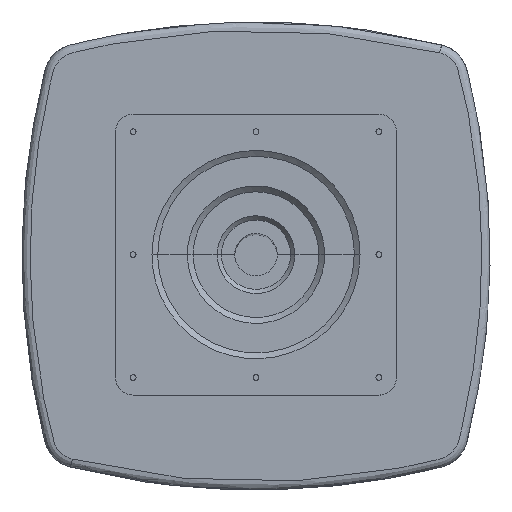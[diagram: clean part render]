
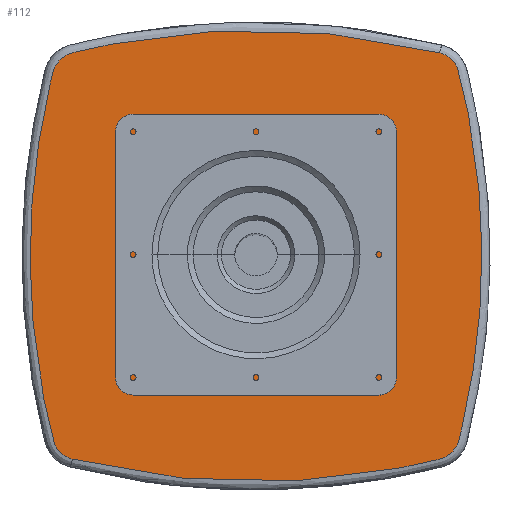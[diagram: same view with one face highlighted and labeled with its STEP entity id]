
A CAD part, top view. The second image highlights one B-rep face of the part: STEP entity #112.
In plain terms, the highlighted planar face has unit normal (0, 0, 1).
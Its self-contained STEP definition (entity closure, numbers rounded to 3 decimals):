
#33=FACE_BOUND('',#293,.T.);
#112=ADVANCED_FACE('',(#193,#33),#1260,.T.);
#193=FACE_OUTER_BOUND('',#292,.T.);
#292=EDGE_LOOP('',(#644,#645));
#293=EDGE_LOOP('',(#646,#647));
#644=ORIENTED_EDGE('',*,*,#866,.T.);
#645=ORIENTED_EDGE('',*,*,#871,.T.);
#646=ORIENTED_EDGE('',*,*,#789,.F.);
#647=ORIENTED_EDGE('',*,*,#847,.F.);
#789=EDGE_CURVE('',#1148,#1149,#987,.T.);
#847=EDGE_CURVE('',#1149,#1148,#1038,.T.);
#866=EDGE_CURVE('',#1176,#1177,#1056,.T.);
#871=EDGE_CURVE('',#1177,#1176,#1061,.T.);
#987=(
BOUNDED_CURVE()
B_SPLINE_CURVE(2,(#2497,#2498,#2499,#2500,#2501),.UNSPECIFIED.,.F.,.F.)
B_SPLINE_CURVE_WITH_KNOTS((3,2,3),(0.,142.72,285.44),
 .UNSPECIFIED.)
CURVE()
GEOMETRIC_REPRESENTATION_ITEM()
RATIONAL_B_SPLINE_CURVE((1.,0.707,1.,0.707,1.))
REPRESENTATION_ITEM('')
);
#1038=(
BOUNDED_CURVE()
B_SPLINE_CURVE(2,(#2706,#2707,#2708,#2709,#2710),.UNSPECIFIED.,.F.,.F.)
B_SPLINE_CURVE_WITH_KNOTS((3,2,3),(285.44,428.159,570.879),
 .UNSPECIFIED.)
CURVE()
GEOMETRIC_REPRESENTATION_ITEM()
RATIONAL_B_SPLINE_CURVE((1.,0.707,1.,0.707,1.))
REPRESENTATION_ITEM('')
);
#1056=(
BOUNDED_CURVE()
B_SPLINE_CURVE(3,(#2794,#2795,#2796,#2797,#2798,#2799,#2800,#2801,#2802,
#2803,#2804,#2805,#2806,#2807,#2808,#2809,#2810,#2811,#2812,#2813,#2814,
#2815,#2816,#2817,#2818),.UNSPECIFIED.,.F.,.F.)
B_SPLINE_CURVE_WITH_KNOTS((4,1,1,1,3,1,1,1,3,1,1,1,3,1,1,1,4),(-684.873,
-606.769,-526.644,-446.516,-367.418,
-361.302,-354.927,-348.551,-342.436,
-263.338,-183.709,-104.079,-24.982,
-18.866,-12.491,-6.116,0.),.UNSPECIFIED.)
CURVE()
GEOMETRIC_REPRESENTATION_ITEM()
RATIONAL_B_SPLINE_CURVE((1.,1.,1.,1.,1.,1.,
1.,1.,1.,1.,1.,1.,1.,1.,1.,1.,1.,1.,
1.,1.,1.,1.,1.,1.,1.))
REPRESENTATION_ITEM('')
);
#1061=(
BOUNDED_CURVE()
B_SPLINE_CURVE(3,(#2841,#2842,#2843,#2844,#2845,#2846,#2847,#2848,#2849,
#2850,#2851,#2852,#2853,#2854,#2855,#2856,#2857,#2858,#2859,#2860,#2861,
#2862,#2863,#2864,#2865),.UNSPECIFIED.,.F.,.F.)
B_SPLINE_CURVE_WITH_KNOTS((4,1,1,1,3,1,1,1,3,1,1,1,3,1,1,1,4),(-684.873,
-605.776,-526.146,-446.517,-367.419,
-361.304,-354.928,-348.553,-342.437,
-263.34,-183.711,-104.081,-24.984,
-18.868,-12.408,-5.959,0.),.UNSPECIFIED.)
CURVE()
GEOMETRIC_REPRESENTATION_ITEM()
RATIONAL_B_SPLINE_CURVE((1.,1.,1.,1.,1.,1.,
1.,1.,1.,1.,1.,1.,1.,1.,1.,1.,1.,1.,
1.,1.,1.,1.,1.,1.,1.))
REPRESENTATION_ITEM('')
);
#1148=VERTEX_POINT('',#2126);
#1149=VERTEX_POINT('',#2127);
#1176=VERTEX_POINT('',#2154);
#1177=VERTEX_POINT('',#2155);
#1260=PLANE('',#1309);
#1309=AXIS2_PLACEMENT_3D('',#1853,#1341,$);
#1341=DIRECTION('',(0.,0.,1.));
#1853=CARTESIAN_POINT('',(-233.689,-233.691,11.));
#2126=CARTESIAN_POINT('',(21.35,0.,10.996));
#2127=CARTESIAN_POINT('',(-21.35,0.,10.996));
#2154=CARTESIAN_POINT('',(156.876,173.57,11.));
#2155=CARTESIAN_POINT('',(-156.876,-173.569,11.));
#2497=CARTESIAN_POINT('',(21.35,0.,10.996));
#2498=CARTESIAN_POINT('',(21.35,21.35,10.996));
#2499=CARTESIAN_POINT('',(0.,21.35,10.996));
#2500=CARTESIAN_POINT('',(-21.35,21.35,10.996));
#2501=CARTESIAN_POINT('',(-21.35,0.,10.996));
#2706=CARTESIAN_POINT('',(-21.35,0.,10.996));
#2707=CARTESIAN_POINT('',(-21.35,-21.35,10.996));
#2708=CARTESIAN_POINT('',(0.,-21.35,10.996));
#2709=CARTESIAN_POINT('',(21.35,-21.35,10.996));
#2710=CARTESIAN_POINT('',(21.35,0.,10.996));
#2794=CARTESIAN_POINT('',(156.876,173.57,11.));
#2795=CARTESIAN_POINT('',(131.668,179.912,11.));
#2796=CARTESIAN_POINT('',(79.82,189.658,11.));
#2797=CARTESIAN_POINT('',(0.498,194.661,11.));
#2798=CARTESIAN_POINT('',(-79.163,189.761,11.));
#2799=CARTESIAN_POINT('',(-131.347,179.992,11.));
#2800=CARTESIAN_POINT('',(-156.876,173.57,11.));
#2801=CARTESIAN_POINT('',(-158.838,173.076,11.));
#2802=CARTESIAN_POINT('',(-162.711,171.536,11.));
#2803=CARTESIAN_POINT('',(-167.735,167.735,11.));
#2804=CARTESIAN_POINT('',(-171.536,162.711,11.));
#2805=CARTESIAN_POINT('',(-173.076,158.838,11.));
#2806=CARTESIAN_POINT('',(-173.569,156.876,11.));
#2807=CARTESIAN_POINT('',(-179.992,131.348,11.));
#2808=CARTESIAN_POINT('',(-189.73,79.326,11.));
#2809=CARTESIAN_POINT('',(-194.641,0.,11.));
#2810=CARTESIAN_POINT('',(-189.73,-79.326,11.));
#2811=CARTESIAN_POINT('',(-179.992,-131.347,11.));
#2812=CARTESIAN_POINT('',(-173.57,-156.876,11.));
#2813=CARTESIAN_POINT('',(-173.076,-158.838,11.));
#2814=CARTESIAN_POINT('',(-171.536,-162.711,11.));
#2815=CARTESIAN_POINT('',(-167.735,-167.735,11.));
#2816=CARTESIAN_POINT('',(-162.711,-171.536,11.));
#2817=CARTESIAN_POINT('',(-158.838,-173.076,11.));
#2818=CARTESIAN_POINT('',(-156.876,-173.569,11.));
#2841=CARTESIAN_POINT('',(-156.876,-173.569,11.));
#2842=CARTESIAN_POINT('',(-131.348,-179.992,11.));
#2843=CARTESIAN_POINT('',(-79.326,-189.73,11.));
#2844=CARTESIAN_POINT('',(0.,-194.641,11.));
#2845=CARTESIAN_POINT('',(79.326,-189.73,11.));
#2846=CARTESIAN_POINT('',(131.347,-179.992,11.));
#2847=CARTESIAN_POINT('',(156.876,-173.57,11.));
#2848=CARTESIAN_POINT('',(158.838,-173.076,11.));
#2849=CARTESIAN_POINT('',(162.711,-171.536,11.));
#2850=CARTESIAN_POINT('',(167.735,-167.735,11.));
#2851=CARTESIAN_POINT('',(171.536,-162.711,11.));
#2852=CARTESIAN_POINT('',(173.076,-158.838,11.));
#2853=CARTESIAN_POINT('',(173.57,-156.876,11.));
#2854=CARTESIAN_POINT('',(179.992,-131.347,11.));
#2855=CARTESIAN_POINT('',(189.73,-79.326,11.));
#2856=CARTESIAN_POINT('',(194.641,0.,11.));
#2857=CARTESIAN_POINT('',(189.73,79.326,11.));
#2858=CARTESIAN_POINT('',(179.992,131.347,11.));
#2859=CARTESIAN_POINT('',(173.57,156.876,11.));
#2860=CARTESIAN_POINT('',(173.076,158.838,11.));
#2861=CARTESIAN_POINT('',(171.526,162.737,11.));
#2862=CARTESIAN_POINT('',(167.683,167.797,11.));
#2863=CARTESIAN_POINT('',(162.638,171.573,11.));
#2864=CARTESIAN_POINT('',(158.788,173.089,11.));
#2865=CARTESIAN_POINT('',(156.876,173.57,11.));
